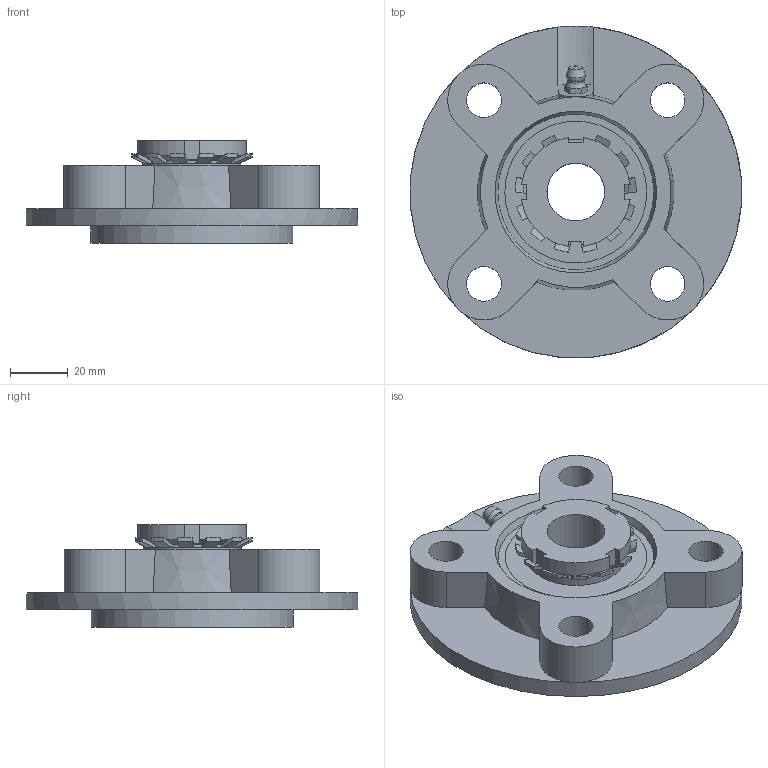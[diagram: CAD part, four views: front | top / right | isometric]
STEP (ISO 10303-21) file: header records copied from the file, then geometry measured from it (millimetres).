
FILE_DESCRIPTION((''),'2;1');
FILE_NAME('\\Ts-tgl068\j-cad-d-base\00.3DCADデータ作成フォルダ\02.フランジ形\UKFC200\UKFC205+H.stp','2014-11-20T16:42:08',('btec_1106_2'),(''),'Autodesk Inventor 2012','Autodesk Inventor 2012','');
FILE_SCHEMA(('AUTOMOTIVE_DESIGN { 1 0 10303 214 1 1 1 1 }'));
Length unit declared in the file: millimetre
Products named in the file (4): UKFC200+H; FC205; UK205; GU1
Assembly tree (3 placements, depth 2):
  UKFC200+H
    FC205
    UK205
    GU1
Bounding box: 114.87 x 114.91 x 35.5 mm (x, y, z)
Volume: 141059.1 mm3; surface area: 44239.9 mm2
Topology: 3 solids, 3 shells, 186 faces, 490 edges, 317 vertices
Faces by surface type: plane 79, cone 54, cylinder 45, sphere 4, bspline 2, torus 2
Full cylindrical faces by diameter (mm): 5.359 x1, 6.35 x1, 12 x4, 20 x1, 34 x2, 70 x1, 115 x1
Entity records: 5686 total; most frequent: CARTESIAN_POINT 1329, ORIENTED_EDGE 920, DIRECTION 865, EDGE_CURVE 460, AXIS2_PLACEMENT_3D 354, VERTEX_POINT 306, EDGE_LOOP 229, FACE_OUTER_BOUND 186
